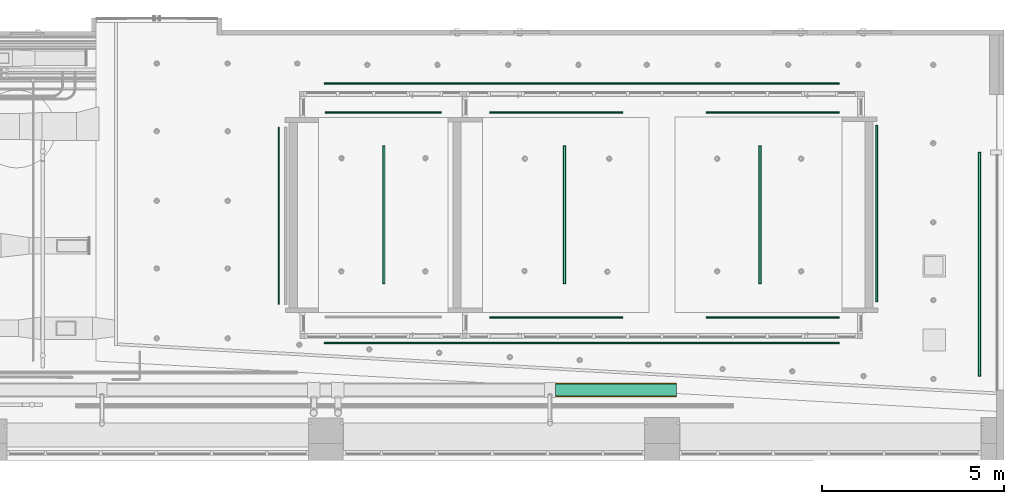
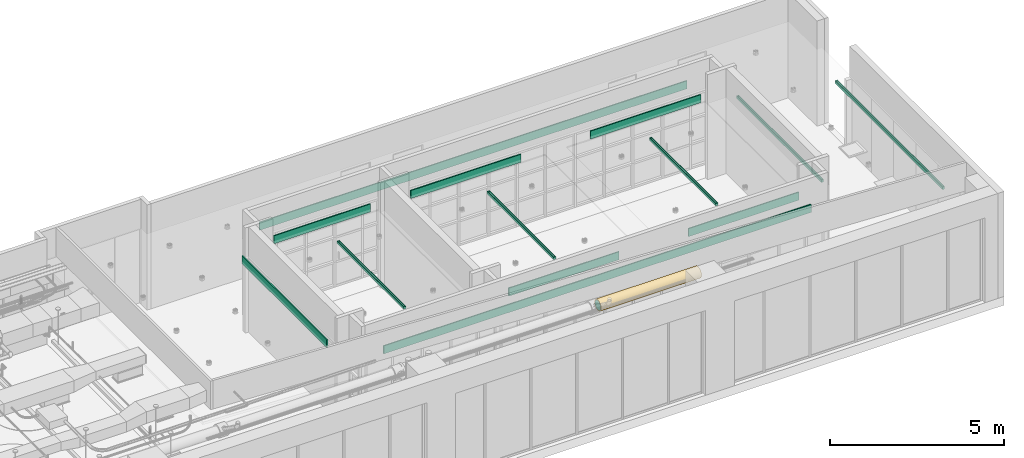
# One storey, part 32 of 108: 8 air terminals, 5 light fixtures, 1 covering, 1 pipe segment.
"""IFC4 building model written with IfcOpenShell, lengths in feet."""

from ifc_helpers import new_model, entity, si_unit, converted_unit, derived_unit, direction, frame, frame_2d, origin, origin_2d_with_axis, place, context, subcontext, project, spatial, polyline, rectangle, circle, outline, extrude, source, transform, mapped, material, constituent, constituent_set, type_object, type_shapes, element, aggregate, save


model = new_model("IFC4")

# Units and contexts
model_context = context("Model", 3, precision=0.0001, world=origin(), true_north=direction((6.12303176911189e-17, 1.0)))
body_context = subcontext(model_context, "Body", "Model", "MODEL_VIEW")
ifc_project = project(units=[converted_unit("LENGTHUNIT", "FOOT", entity("IfcRatioMeasure", 0.3048), si_unit("LENGTHUNIT", "METRE"), dimensions=[1, 0, 0, 0, 0, 0, 0]), converted_unit("AREAUNIT", "SQUARE FOOT", entity("IfcRatioMeasure", 0.09290304), si_unit("AREAUNIT", "SQUARE_METRE"), dimensions=[2, 0, 0, 0, 0, 0, 0]), converted_unit("VOLUMEUNIT", "CUBIC FOOT", entity("IfcRatioMeasure", 0.028316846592), si_unit("VOLUMEUNIT", "CUBIC_METRE"), dimensions=[3, 0, 0, 0, 0, 0, 0]), converted_unit("PLANEANGLEUNIT", "DEGREE", entity("IfcRatioMeasure", 0.0174532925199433), si_unit("PLANEANGLEUNIT", "RADIAN"), dimensions=[0, 0, 0, 0, 0, 0, 0]), si_unit("MASSUNIT", "GRAM", prefix="KILO"), derived_unit("MASSDENSITYUNIT", [(si_unit("MASSUNIT", "GRAM", prefix="KILO"), 1), (si_unit("LENGTHUNIT", "METRE"), -3)]), si_unit("TIMEUNIT", "SECOND"), si_unit("FREQUENCYUNIT", "HERTZ"), si_unit("THERMODYNAMICTEMPERATUREUNIT", "DEGREE_CELSIUS"), derived_unit("THERMALTRANSMITTANCEUNIT", [(si_unit("MASSUNIT", "GRAM", prefix="KILO"), 1), (si_unit("THERMODYNAMICTEMPERATUREUNIT", "KELVIN"), -1), (si_unit("TIMEUNIT", "SECOND"), -3)]), derived_unit("VOLUMETRICFLOWRATEUNIT", [(si_unit("LENGTHUNIT", "METRE"), 3), (si_unit("TIMEUNIT", "SECOND"), -1)]), si_unit("ELECTRICCURRENTUNIT", "AMPERE"), si_unit("ELECTRICVOLTAGEUNIT", "VOLT"), si_unit("POWERUNIT", "WATT"), si_unit("FORCEUNIT", "NEWTON"), si_unit("ILLUMINANCEUNIT", "LUX"), si_unit("LUMINOUSFLUXUNIT", "LUMEN"), si_unit("LUMINOUSINTENSITYUNIT", "CANDELA"), derived_unit("USERDEFINED", [(si_unit("MASSUNIT", "GRAM", prefix="KILO"), -1), (si_unit("LENGTHUNIT", "METRE"), -2), (si_unit("TIMEUNIT", "SECOND"), 3), (si_unit("LUMINOUSFLUXUNIT", "LUMEN"), 1)]), derived_unit("LINEARVELOCITYUNIT", [(si_unit("LENGTHUNIT", "METRE"), 1), (si_unit("TIMEUNIT", "SECOND"), -1)]), si_unit("PRESSUREUNIT", "PASCAL"), derived_unit("USERDEFINED", [(si_unit("LENGTHUNIT", "METRE"), -2), (si_unit("MASSUNIT", "GRAM", prefix="KILO"), 1), (si_unit("TIMEUNIT", "SECOND"), -2)])], contexts=[model_context])

# Covering
site_placement = place(None, origin())
building_placement = place(site_placement, origin())
storey_placement = place(building_placement, frame((0.0, 0.0, 168.0)))
covering_placement = place(storey_placement, frame((21.3694261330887, -17.3700330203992, 8.71351616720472)))
covering = element("IfcCovering", 1, at=covering_placement, Name="Pipe Insulation:Default", ObjectType="Pipe Insulation:Default", PredefinedType="INSULATION", context=body_context, shape_type="SweptSolid", body=[
    extrude(circle(Radius=0.614583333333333, at=frame_2d((3.5527136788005e-15, 0.0), x_axis=(1.0, 0.0))), frame((0.0, 0.619817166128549, 0.619817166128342), z_axis=(1.0, 0.0, 0.0), x_axis=(0.0, 1.0, 0.0)), (0.0, 0.0, 1.0), 10.9262706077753),
])

# Site, building, storey
site = spatial("IfcSite", under=ifc_project, at=site_placement, Name="Default", CompositionType="ELEMENT")
building = spatial("IfcBuilding", under=site, at=building_placement, CompositionType="ELEMENT")
storey = spatial("IfcBuildingStorey", under=building, at=storey_placement, Name="Level 15", CompositionType="ELEMENT", Elevation=168.0)

# Light fixtures
ifc_material_1 = material(Name="Glass, White, High Luminance", Category="Glass")
ifc_constituent_1 = constituent(ifc_material_1, Name="Glass, White, High Luminance", Category="Materials")
ifc_material_2 = material(Name="Steel, Paint Finish, Ivory, Glossy", Category="Metal")
ifc_constituent_2 = constituent(ifc_material_2, Name="Steel, Paint Finish, Ivory, Glossy", Category="Materials")
ifc_constituent_set_1 = constituent_set(constituents=[ifc_constituent_1, ifc_constituent_2], Name="MaterialConstituentSet")
ifc_constituent_3 = constituent(ifc_material_1, Name="Glass, White, High Luminance", Category="Materials")
ifc_constituent_4 = constituent(ifc_material_2, Name="Steel, Paint Finish, Ivory, Glossy", Category="Materials")
ifc_constituent_set_2 = constituent_set(constituents=[ifc_constituent_3, ifc_constituent_4], Name="MaterialConstituentSet")
light_fixture_type_1 = type_object("IfcLightFixtureType", Name="20' 3\"", PredefinedType="NOTDEFINED", material=ifc_constituent_set_2)
shared_shape_1 = source(origin(), body_context, "Body", "SweptSolid", [
    extrude(rectangle(XDim=20.1666666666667, YDim=0.166666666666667, at=origin_2d_with_axis()), frame((10.125, 0.124999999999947, 0.0), z_axis=(0.0, 0.0, 1.0), x_axis=(-1.0, 0.0, 0.0)), (0.0, 0.0, 1.0), 0.0208333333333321),
    extrude(outline(polyline([(-10.125, -0.125000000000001), (10.125, -0.125000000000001), (10.125, 0.125000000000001), (-10.125, 0.125000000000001), (-10.125, -0.125000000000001)]), holes=[polyline([(-10.0833333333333, -0.0833333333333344), (-10.0833333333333, 0.0833333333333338), (10.0833333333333, 0.0833333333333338), (10.0833333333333, -0.0833333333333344), (-10.0833333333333, -0.0833333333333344)])]), frame((10.125, 0.125000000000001, 0.0), z_axis=(0.0, 0.0, 1.0), x_axis=(-1.0, 0.0, 0.0)), (0.0, 0.0, 1.0), 0.291666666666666),
])
type_shapes(light_fixture_type_1, [shared_shape_1])
light_fixture_1_placement = place(storey_placement, frame((59.7962877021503, -15.52662562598, 8.5), z_axis=(0.0, 0.0, 1.0), x_axis=(0.0, 1.0, 0.0)))
element("IfcLightFixture", 2, at=light_fixture_1_placement, inside=storey, type_object=light_fixture_type_1, material=ifc_constituent_set_1, Name="Ceiling Light - Linear Box:20' 3\"", ObjectType="Ceiling Light - Linear Box:20' 3\"", PredefinedType="NOTDEFINED", context=body_context, shape_type="MappedRepresentation", body=[
    mapped(shared_shape_1, transform((0.0, 0.0, 0.0), scale=1.0)),
])
ifc_constituent_5 = constituent(ifc_material_1, Name="Glass, White, High Luminance", Category="Materials")
ifc_constituent_6 = constituent(ifc_material_2, Name="Steel, Paint Finish, Ivory, Glossy", Category="Materials")
ifc_constituent_set_3 = constituent_set(constituents=[ifc_constituent_5, ifc_constituent_6], Name="MaterialConstituentSet")
ifc_constituent_7 = constituent(ifc_material_1, Name="Glass, White, High Luminance", Category="Materials")
ifc_constituent_8 = constituent(ifc_material_2, Name="Steel, Paint Finish, Ivory, Glossy", Category="Materials")
ifc_constituent_set_4 = constituent_set(constituents=[ifc_constituent_7, ifc_constituent_8], Name="MaterialConstituentSet")
light_fixture_type_2 = type_object("IfcLightFixtureType", Name="16'", PredefinedType="NOTDEFINED", material=ifc_constituent_set_4)
shared_shape_2 = source(origin(), body_context, "Body", "SweptSolid", [
    extrude(rectangle(XDim=15.9166666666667, YDim=0.166666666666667, at=origin_2d_with_axis()), frame((8.0, 0.124999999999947, 0.0), z_axis=(0.0, 0.0, 1.0), x_axis=(-1.0, 0.0, 0.0)), (0.0, 0.0, 1.0), 0.0208333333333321),
    extrude(outline(polyline([(-8.0, -0.125000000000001), (8.0, -0.125000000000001), (8.0, 0.125000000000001), (-8.0, 0.125000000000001), (-8.0, -0.125000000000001)]), holes=[polyline([(-7.95833333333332, -0.0833333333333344), (-7.95833333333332, 0.0833333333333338), (7.95833333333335, 0.0833333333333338), (7.95833333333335, -0.0833333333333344), (-7.95833333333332, -0.0833333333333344)])]), frame((8.0, 0.125000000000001, 0.0), z_axis=(0.0, 0.0, 1.0), x_axis=(-1.0, 0.0, 0.0)), (0.0, 0.0, 1.0), 0.291666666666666),
])
type_shapes(light_fixture_type_2, [shared_shape_2])
light_fixture_2_placement = place(storey_placement, frame((50.5113467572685, -8.8261364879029, 8.5), z_axis=(0.0, 0.0, 1.0), x_axis=(0.0, 1.0, 0.0)))
element("IfcLightFixture", 3, at=light_fixture_2_placement, inside=storey, type_object=light_fixture_type_2, material=ifc_constituent_set_3, Name="Ceiling Light - Linear Box:16'", ObjectType="Ceiling Light - Linear Box:16'", PredefinedType="NOTDEFINED", context=body_context, shape_type="MappedRepresentation", body=[
    mapped(shared_shape_2, transform((0.0, 0.0, 0.0), scale=1.0)),
])
ifc_constituent_9 = constituent(ifc_material_1, Name="Glass, White, High Luminance", Category="Materials")
ifc_constituent_10 = constituent(ifc_material_2, Name="Steel, Paint Finish, Ivory, Glossy", Category="Materials")
ifc_constituent_set_5 = constituent_set(constituents=[ifc_constituent_9, ifc_constituent_10], Name="MaterialConstituentSet")
ifc_constituent_11 = constituent(ifc_material_1, Name="Glass, White, High Luminance", Category="Materials")
ifc_constituent_12 = constituent(ifc_material_2, Name="Steel, Paint Finish, Ivory, Glossy", Category="Materials")
ifc_constituent_set_6 = constituent_set(constituents=[ifc_constituent_11, ifc_constituent_12], Name="MaterialConstituentSet")
light_fixture_type_3 = type_object("IfcLightFixtureType", Name="12-6", PredefinedType="NOTDEFINED", material=ifc_constituent_set_6)
shared_shape_3 = source(origin(), body_context, "Body", "SweptSolid", [
    extrude(rectangle(XDim=12.4166666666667, YDim=0.166666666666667, at=origin_2d_with_axis()), frame((6.24999999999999, 0.124999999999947, 0.0), z_axis=(0.0, 0.0, 1.0), x_axis=(-1.0, 0.0, 0.0)), (0.0, 0.0, 1.0), 0.0208333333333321),
    extrude(outline(polyline([(-6.25, -0.125000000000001), (6.25, -0.125000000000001), (6.25, 0.125000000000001), (-6.25, 0.125000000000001), (-6.25, -0.125000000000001)]), holes=[polyline([(-6.20833333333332, -0.0833333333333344), (-6.20833333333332, 0.0833333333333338), (6.20833333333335, 0.0833333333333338), (6.20833333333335, -0.0833333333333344), (-6.20833333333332, -0.0833333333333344)])]), frame((6.25, 0.125000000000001, 0.0), z_axis=(0.0, 0.0, 1.0), x_axis=(-1.0, 0.0, 0.0)), (0.0, 0.0, 1.0), 0.291666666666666),
])
type_shapes(light_fixture_type_3, [shared_shape_3])
light_fixture_3_placement = place(storey_placement, frame((39.9685408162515, -7.16681279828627, 8.5), z_axis=(0.0, 0.0, 1.0), x_axis=(0.0, 1.0, 0.0)))
element("IfcLightFixture", 4, at=light_fixture_3_placement, inside=storey, type_object=light_fixture_type_3, material=ifc_constituent_set_5, Name="Ceiling Light - Linear Box:12-6", ObjectType="Ceiling Light - Linear Box:12-6", PredefinedType="NOTDEFINED", context=body_context, shape_type="MappedRepresentation", body=[
    mapped(shared_shape_3, transform((0.0, 0.0, 0.0), scale=1.0)),
])
ifc_constituent_13 = constituent(ifc_material_1, Name="Glass, White, High Luminance", Category="Materials")
ifc_constituent_14 = constituent(ifc_material_2, Name="Steel, Paint Finish, Ivory, Glossy", Category="Materials")
ifc_constituent_set_7 = constituent_set(constituents=[ifc_constituent_13, ifc_constituent_14], Name="MaterialConstituentSet")
light_fixture_4_placement = place(storey_placement, frame((22.3360576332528, -7.16663384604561, 8.5), z_axis=(0.0, 0.0, 1.0), x_axis=(0.0, 1.0, 0.0)))
element("IfcLightFixture", 5, at=light_fixture_4_placement, inside=storey, type_object=light_fixture_type_3, material=ifc_constituent_set_7, Name="Ceiling Light - Linear Box:12-6", ObjectType="Ceiling Light - Linear Box:12-6", PredefinedType="NOTDEFINED", context=body_context, shape_type="MappedRepresentation", body=[
    mapped(shared_shape_3, transform((0.0, 0.0, 0.0), scale=1.0)),
])
ifc_constituent_15 = constituent(ifc_material_1, Name="Glass, White, High Luminance", Category="Materials")
ifc_constituent_16 = constituent(ifc_material_2, Name="Steel, Paint Finish, Ivory, Glossy", Category="Materials")
ifc_constituent_set_8 = constituent_set(constituents=[ifc_constituent_15, ifc_constituent_16], Name="MaterialConstituentSet")
light_fixture_5_placement = place(storey_placement, frame((6.01806263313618, -7.16681279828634, 8.5), z_axis=(0.0, 0.0, 1.0), x_axis=(0.0, 1.0, 0.0)))
element("IfcLightFixture", 6, at=light_fixture_5_placement, inside=storey, type_object=light_fixture_type_3, material=ifc_constituent_set_8, Name="Ceiling Light - Linear Box:12-6", ObjectType="Ceiling Light - Linear Box:12-6", PredefinedType="NOTDEFINED", context=body_context, shape_type="MappedRepresentation", body=[
    mapped(shared_shape_3, transform((0.0, 0.0, 0.0), scale=1.0)),
])

# Pipe segment
pipe_segment_type = type_object("IfcPipeSegmentType", Name="Pipe Types:Hydronic", PredefinedType="NOTDEFINED")
pipe_segment_placement = place(storey_placement, frame((21.3694261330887, -17.2866996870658, 8.79684950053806)))
pipe_segment = element("IfcPipeSegment", 7, at=pipe_segment_placement, inside=storey, type_object=pipe_segment_type, Name="Pipe Types:Hydronic", ObjectType="Pipe Types:Hydronic", PredefinedType="NOTDEFINED", context=body_context, shape_type="SweptSolid", body=[
    extrude(circle(Radius=0.53125, at=frame_2d((3.5527136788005e-15, 0.0), x_axis=(1.0, 0.0))), frame((0.0, 0.53648383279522, 0.536483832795), z_axis=(1.0, 0.0, 0.0), x_axis=(0.0, -1.0, 0.0)), (0.0, 0.0, 1.0), 10.9262706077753),
])

aggregate(pipe_segment, [covering])

# Air terminals
air_terminal_type_1 = type_object("IfcAirTerminalType", Name="12'", PredefinedType="NOTDEFINED")
shared_shape_4 = source(origin(), body_context, "Body", "SweptSolid", [
    extrude(rectangle(XDim=12.0, YDim=0.124999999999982, at=origin_2d_with_axis()), frame((0.0, 0.0, -0.916666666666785), z_axis=(0.0, 0.0, 1.0), x_axis=(-1.0, 0.0, 0.0)), (0.0, 0.0, 1.0), 0.916666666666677),
])
type_shapes(air_terminal_type_1, [shared_shape_4])
for number, where, z_axis, x_axis in (
    (8, (21.4466530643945, 8.29640288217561, 8.5), (0.0, 0.0, -1.0), (1.0, 0.0, 0.0)),
    (9, (40.9883122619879, 8.29640288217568, 8.5), (0.0, 0.0, -1.0), (1.0, 0.0, 0.0)),
    (10, (21.4466530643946, -10.1931804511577, 8.5), (0.0, 0.0, -1.0), (1.0, 0.0, 0.0)),
    (11, (40.988312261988, -10.1931804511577, 8.5), (0.0, 0.0, -1.0), (1.0, 0.0, 0.0)),
):
    element("IfcAirTerminal", number, at=place(storey_placement, frame(where, z_axis=z_axis, x_axis=x_axis)), inside=storey, type_object=air_terminal_type_1, Name="Supply Diffuser with Plenum - Linear Slot - Hosted:12'", ObjectType="Supply Diffuser with Plenum - Linear Slot - Hosted:12'", PredefinedType="NOTDEFINED", context=body_context, shape_type="MappedRepresentation", body=[
        mapped(shared_shape_4, transform((0.0, 0.0, 0.0), scale=1.0)),
    ])
air_terminal_type_2 = type_object("IfcAirTerminalType", Name="10'-6\"", PredefinedType="NOTDEFINED")
shared_shape_5 = source(origin(), body_context, "Body", "SweptSolid", [
    extrude(rectangle(XDim=10.5, YDim=0.124999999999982, at=origin_2d_with_axis()), frame((0.0, 0.0, -0.916666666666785), z_axis=(0.0, 0.0, 1.0), x_axis=(-1.0, 0.0, 0.0)), (0.0, 0.0, 1.0), 0.916666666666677),
])
type_shapes(air_terminal_type_2, [shared_shape_5])
air_terminal_1_placement = place(storey_placement, frame((5.8387039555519, 8.31387335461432, 8.5), z_axis=(0.0, 0.0, -1.0), x_axis=(1.0, 0.0, 0.0)))
element("IfcAirTerminal", 12, at=air_terminal_1_placement, inside=storey, type_object=air_terminal_type_2, Name="Supply Diffuser with Plenum - Linear Slot - Hosted:10'-6\"", ObjectType="Supply Diffuser with Plenum - Linear Slot - Hosted:10'-6\"", PredefinedType="NOTDEFINED", context=body_context, shape_type="MappedRepresentation", body=[
    mapped(shared_shape_5, transform((0.0, 0.0, 0.0), scale=1.0)),
])
air_terminal_type_3 = type_object("IfcAirTerminalType", Name="16'", PredefinedType="NOTDEFINED")
shared_shape_6 = source(origin(), body_context, "Body", "SweptSolid", [
    extrude(rectangle(XDim=16.0, YDim=0.124999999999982, at=origin_2d_with_axis()), frame((0.0, 0.0, -0.916666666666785), z_axis=(0.0, 0.0, 1.0), x_axis=(-1.0, 0.0, 0.0)), (0.0, 0.0, 1.0), 0.916666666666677),
])
type_shapes(air_terminal_type_3, [shared_shape_6])
air_terminal_2_placement = place(storey_placement, frame((-3.5923277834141, -1.02036220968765, 8.5), z_axis=(0.0, 0.0, -1.0), x_axis=(0.0, -1.0, 0.0)))
element("IfcAirTerminal", 13, at=air_terminal_2_placement, inside=storey, type_object=air_terminal_type_3, Name="Supply Diffuser with Plenum - Linear Slot - Hosted:16'", ObjectType="Supply Diffuser with Plenum - Linear Slot - Hosted:16'", PredefinedType="NOTDEFINED", context=body_context, shape_type="MappedRepresentation", body=[
    mapped(shared_shape_6, transform((0.0, 0.0, 0.0), scale=1.0)),
])
air_terminal_type_4 = type_object("IfcAirTerminalType", Name="46'-6\"", PredefinedType="NOTDEFINED")
shared_shape_7 = source(origin(), body_context, "Body", "SweptSolid", [
    extrude(rectangle(XDim=46.5, YDim=0.124999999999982, at=origin_2d_with_axis()), frame((0.0, 0.0, -0.916666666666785), z_axis=(0.0, 0.0, 1.0), x_axis=(-1.0, 0.0, 0.0)), (0.0, 0.0, 1.0), 0.916666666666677),
])
type_shapes(air_terminal_type_4, [shared_shape_7])
for number, where, z_axis, x_axis in (
    (14, (23.7538355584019, 10.9192703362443, 8.5), (0.0, 0.0, -1.0), (-1.0, 0.0, 0.0)),
    (15, (23.753835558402, -12.5148079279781, 8.5), (0.0, 0.0, -1.0), (-1.0, 0.0, 0.0)),
):
    element("IfcAirTerminal", number, at=place(storey_placement, frame(where, z_axis=z_axis, x_axis=x_axis)), inside=storey, type_object=air_terminal_type_4, Name="Supply Diffuser with Plenum - Linear Slot - Hosted:46'-6\"", ObjectType="Supply Diffuser with Plenum - Linear Slot - Hosted:46'-6\"", PredefinedType="NOTDEFINED", context=body_context, shape_type="MappedRepresentation", body=[
        mapped(shared_shape_7, transform((0.0, 0.0, 0.0), scale=1.0)),
    ])

save(model, "model.ifc")
